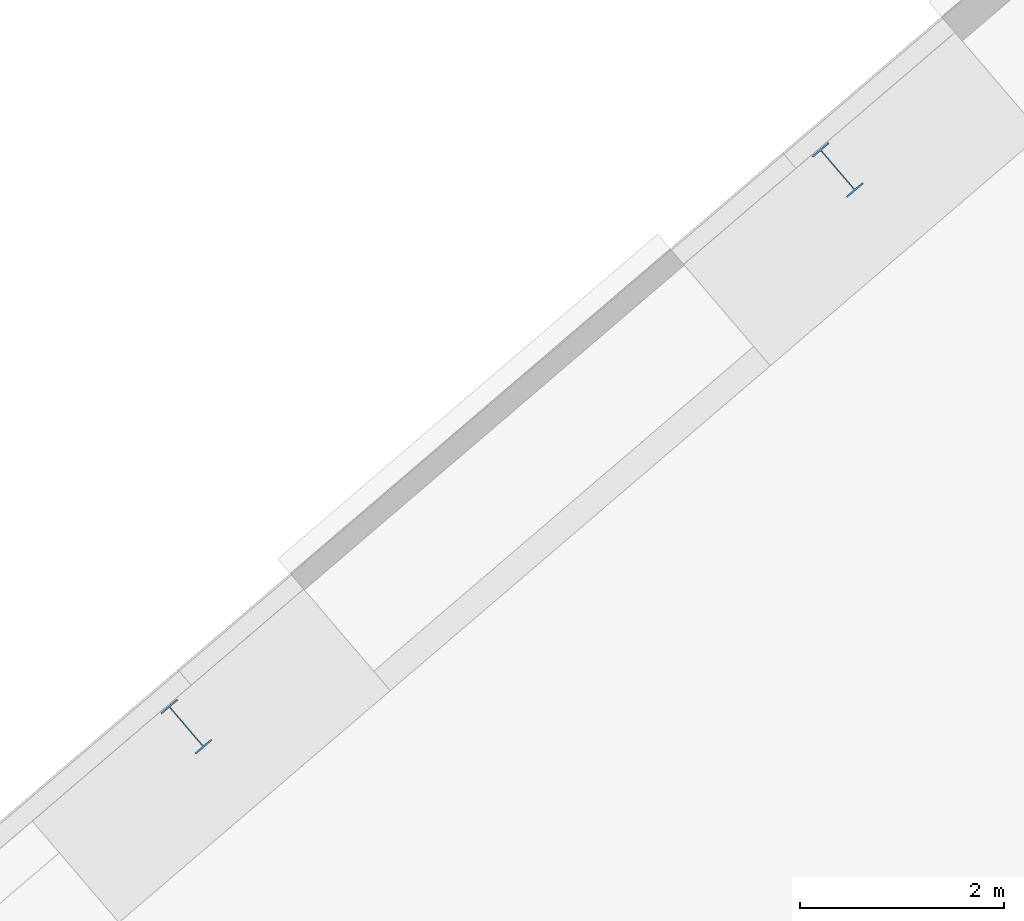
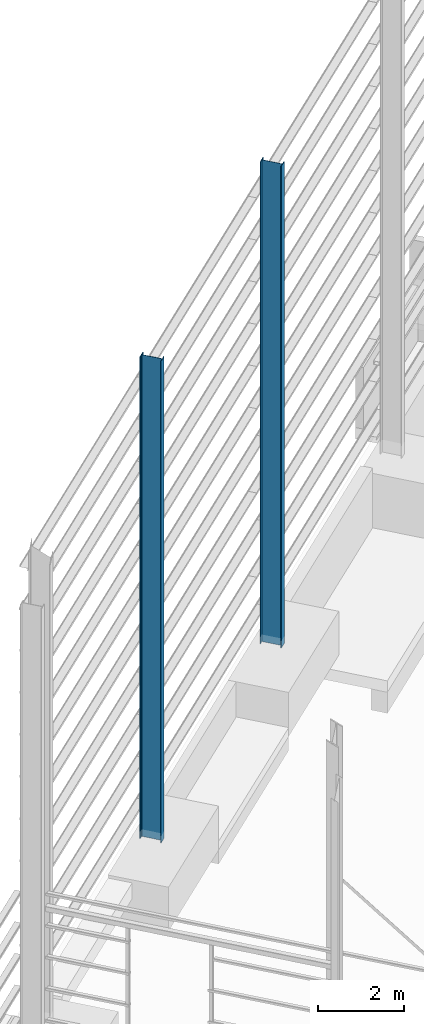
# One storey, part 5 of 41: 2 columns.
"""IFC2X3 building model written with IfcOpenShell, lengths in millimetres."""

from ifc_helpers import new_model, entity, si_unit, converted_unit, derived_unit, direction, frame, origin, origin_2d, place, context, project, spatial, i_section, extrude, material, type_object, element, save


model = new_model("IFC2X3")

# Units and contexts
model_context = context("Model", 3, precision=0.01, world=origin(), true_north=direction((6.123031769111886e-17, 1.0)))
ifc_project = project(units=[si_unit("LENGTHUNIT", "METRE", prefix="MILLI"), si_unit("AREAUNIT", "SQUARE_METRE"), si_unit("VOLUMEUNIT", "CUBIC_METRE"), converted_unit("PLANEANGLEUNIT", "DEGREE", entity("IfcRatioMeasure", 0.017453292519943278), si_unit("PLANEANGLEUNIT", "RADIAN"), dimensions=[0, 0, 0, 0, 0, 0, 0]), si_unit("MASSUNIT", "GRAM", prefix="KILO"), derived_unit("MASSDENSITYUNIT", [(si_unit("MASSUNIT", "GRAM", prefix="KILO"), 1), (si_unit("LENGTHUNIT", "METRE"), -3)]), derived_unit("MOMENTOFINERTIAUNIT", [(si_unit("LENGTHUNIT", "METRE"), 4)]), si_unit("TIMEUNIT", "SECOND"), si_unit("FREQUENCYUNIT", "HERTZ"), si_unit("THERMODYNAMICTEMPERATUREUNIT", "DEGREE_CELSIUS"), derived_unit("THERMALTRANSMITTANCEUNIT", [(si_unit("MASSUNIT", "GRAM", prefix="KILO"), 1), (si_unit("THERMODYNAMICTEMPERATUREUNIT", "KELVIN"), -1), (si_unit("TIMEUNIT", "SECOND"), -3)]), derived_unit("VOLUMETRICFLOWRATEUNIT", [(si_unit("LENGTHUNIT", "METRE"), 3), (si_unit("TIMEUNIT", "SECOND"), -1)]), derived_unit("MASSFLOWRATEUNIT", [(si_unit("MASSUNIT", "GRAM", prefix="KILO"), 1), (si_unit("TIMEUNIT", "SECOND"), -1)]), derived_unit("ROTATIONALFREQUENCYUNIT", [(si_unit("TIMEUNIT", "SECOND"), -1)]), si_unit("ELECTRICCURRENTUNIT", "AMPERE"), si_unit("ELECTRICVOLTAGEUNIT", "VOLT"), si_unit("POWERUNIT", "WATT"), si_unit("FORCEUNIT", "NEWTON", prefix="KILO"), si_unit("ILLUMINANCEUNIT", "LUX"), si_unit("LUMINOUSFLUXUNIT", "LUMEN"), si_unit("LUMINOUSINTENSITYUNIT", "CANDELA"), derived_unit("USERDEFINED", [(si_unit("MASSUNIT", "GRAM", prefix="KILO"), -1), (si_unit("LENGTHUNIT", "METRE"), -2), (si_unit("TIMEUNIT", "SECOND"), 3), (si_unit("LUMINOUSFLUXUNIT", "LUMEN"), 1)]), derived_unit("SOUNDPOWERUNIT", [(si_unit("MASSUNIT", "GRAM", prefix="KILO"), 1), (si_unit("LENGTHUNIT", "METRE"), 2), (si_unit("TIMEUNIT", "SECOND"), -3)]), derived_unit("LINEARVELOCITYUNIT", [(si_unit("LENGTHUNIT", "METRE"), 1), (si_unit("TIMEUNIT", "SECOND"), -1)]), si_unit("PRESSUREUNIT", "PASCAL"), derived_unit("USERDEFINED", [(si_unit("LENGTHUNIT", "METRE"), -2), (si_unit("MASSUNIT", "GRAM", prefix="KILO"), 1), (si_unit("TIMEUNIT", "SECOND"), -2)]), derived_unit("LINEARFORCEUNIT", [(si_unit("MASSUNIT", "GRAM", prefix="KILO"), 1), (si_unit("LENGTHUNIT", "METRE"), 1), (si_unit("TIMEUNIT", "SECOND"), -2), (si_unit("LENGTHUNIT", "METRE"), -1)]), derived_unit("PLANARFORCEUNIT", [(si_unit("MASSUNIT", "GRAM", prefix="KILO"), 1), (si_unit("LENGTHUNIT", "METRE"), 1), (si_unit("TIMEUNIT", "SECOND"), -2), (si_unit("LENGTHUNIT", "METRE"), -2)])], contexts=[model_context])

# Site, building, storey
site_placement = place(None, frame((962.4174930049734, -6014.433753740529, 0.0), z_axis=(0.0, 0.0, 1.0), x_axis=(0.7601792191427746, 0.649713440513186, 0.0)))
site = spatial("IfcSite", under=ifc_project, at=site_placement, Name="Default", CompositionType="ELEMENT")
building_placement = place(site_placement, origin())
building = spatial("IfcBuilding", under=site, at=building_placement, CompositionType="ELEMENT")
storey_placement = place(building_placement, origin())
storey = spatial("IfcBuildingStorey", under=building, at=storey_placement, Name="Datum", CompositionType="ELEMENT", Elevation=0.0)

# Columns
ifc_material = material(Name="Metal - Steel - 300 MPa")
column_type = type_object("IfcColumnType", Name="ADSK_AU_UB-Universal Beams-Column (AS 3679_1):530UB92.4", PredefinedType="COLUMN", material=ifc_material)
for number, where in (
    (1, (162338.96020471, 3392.571917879, 13510.0)),
    (2, (170738.96020471, 3392.571917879, 13510.0)),
):
    element("IfcColumn", number, at=place(building_placement, frame(where)), inside=storey, type_object=column_type, material=ifc_material, Name="ADSK_AU_UB-Universal Beams-Column (AS 3679_1):530UB92.4", ObjectType="530UB92.4", context=model_context, shape_type="SweptSolid", body=[
        extrude(i_section(OverallWidth=209.0, OverallDepth=533.0, WebThickness=10.2, FlangeThickness=15.6, FilletRadius=14.0, at=origin_2d()), origin(), (0.0, 0.0, -1.0), 13710.0),
    ])

save(model, "model.ifc")
